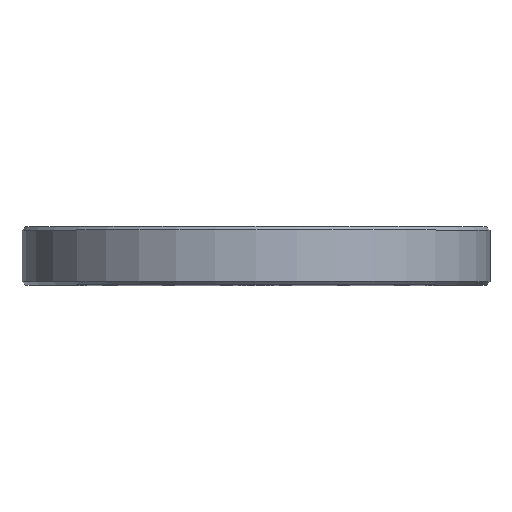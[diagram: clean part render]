
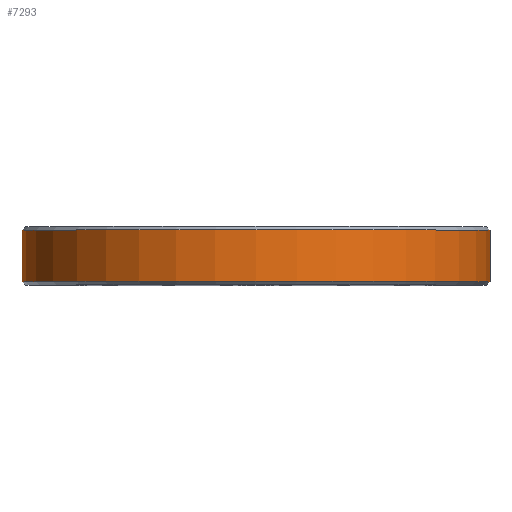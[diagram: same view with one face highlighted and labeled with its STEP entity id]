
A CAD part, top view. The second image highlights one B-rep face of the part: STEP entity #7293.
In plain terms, the highlighted cylindrical face has radius 200 mm (diameter 400 mm), a partial arc.
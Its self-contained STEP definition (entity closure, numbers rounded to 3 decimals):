
#2633=CARTESIAN_POINT('',(0.,22.,0.));
#2634=DIRECTION('',(0.,1.,0.));
#2635=DIRECTION('',(-1.,0.,0.));
#2636=AXIS2_PLACEMENT_3D('',#2633,#2634,#2635);
#2638=CARTESIAN_POINT('',(0.,-22.,0.));
#2639=DIRECTION('',(0.,-1.,0.));
#2640=DIRECTION('',(1.,0.,0.));
#2641=AXIS2_PLACEMENT_3D('',#2638,#2639,#2640);
#2643=DIRECTION('',(0.,1.,0.));
#2644=VECTOR('',#2643,44.);
#2645=CARTESIAN_POINT('',(-200.,-22.,0.));
#2646=LINE('',#2645,#2644);
#2657=DIRECTION('',(0.,1.,0.));
#2658=VECTOR('',#2657,44.);
#2659=CARTESIAN_POINT('',(200.,-22.,0.));
#2660=LINE('',#2659,#2658);
#3417=CARTESIAN_POINT('',(200.,22.,0.));
#3418=CARTESIAN_POINT('',(-200.,22.,0.));
#3419=VERTEX_POINT('',#3417);
#3420=VERTEX_POINT('',#3418);
#3425=CARTESIAN_POINT('',(-200.,-22.,0.));
#3426=CARTESIAN_POINT('',(200.,-22.,0.));
#3427=VERTEX_POINT('',#3425);
#3428=VERTEX_POINT('',#3426);
#7279=CARTESIAN_POINT('',(0.,-25.,0.));
#7280=DIRECTION('',(0.,1.,0.));
#7281=DIRECTION('',(1.,0.,0.));
#7282=AXIS2_PLACEMENT_3D('',#7279,#7280,#7281);
#7283=CYLINDRICAL_SURFACE('',#7282,200.);
#7284=ORIENTED_EDGE('',*,*,#7273,.T.);
#7286=ORIENTED_EDGE('',*,*,#7285,.F.);
#7288=ORIENTED_EDGE('',*,*,#7287,.T.);
#7290=ORIENTED_EDGE('',*,*,#7289,.T.);
#7291=EDGE_LOOP('',(#7284,#7286,#7288,#7290));
#7292=FACE_OUTER_BOUND('',#7291,.F.);
#7293=ADVANCED_FACE('',(#7292),#7283,.T.);
#2637=CIRCLE('',#2636,200.);
#2642=CIRCLE('',#2641,200.);
#7273=EDGE_CURVE('',#3420,#3419,#2637,.T.);
#7285=EDGE_CURVE('',#3428,#3419,#2660,.T.);
#7287=EDGE_CURVE('',#3428,#3427,#2642,.T.);
#7289=EDGE_CURVE('',#3427,#3420,#2646,.T.);
